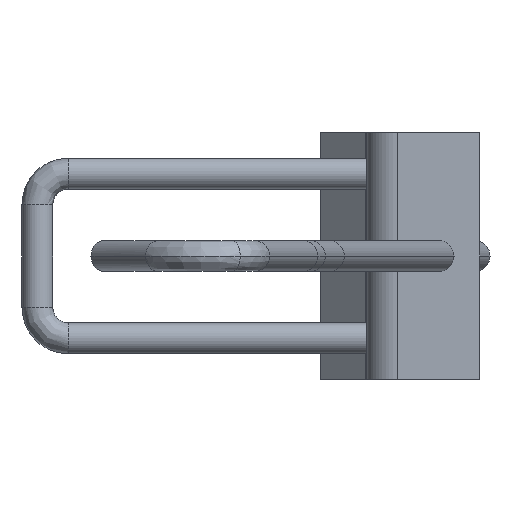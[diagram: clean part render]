
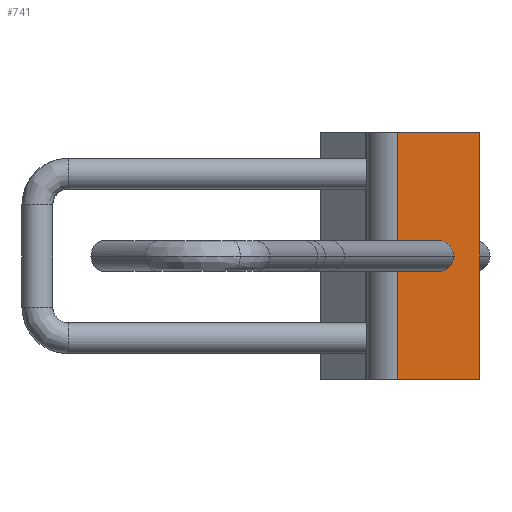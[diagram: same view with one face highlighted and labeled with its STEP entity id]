
A CAD part, left-side view. The second image highlights one B-rep face of the part: STEP entity #741.
In plain terms, the highlighted planar face has unit normal (-1, 0, 0).
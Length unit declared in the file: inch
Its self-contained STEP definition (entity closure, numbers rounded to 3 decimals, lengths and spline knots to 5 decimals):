
#461=EDGE_CURVE('',#1168,#1169,#1170,.T.);
#489=EDGE_CURVE('',#1168,#1140,#1211,.T.);
#547=EDGE_CURVE('',#1300,#1301,#1302,.T.);
#569=EDGE_CURVE('',#1301,#1300,#1335,.T.);
#639=EDGE_CURVE('',#1140,#1376,#1438,.T.);
#675=EDGE_CURVE('',#1169,#1376,#1487,.T.);
#741=ADVANCED_FACE('',(#1571,#1572),#1573,.T.);
#1140=VERTEX_POINT('',#2231);
#1168=VERTEX_POINT('',#2271);
#1169=VERTEX_POINT('',#2272);
#1170=LINE('',#2273,#2274);
#1211=LINE('',#2406,#2407);
#1300=VERTEX_POINT('',#2548);
#1301=VERTEX_POINT('',#2549);
#1302=ELLIPSE('',#2550,0.19058,0.1875);
#1335=ELLIPSE('',#2603,0.19058,0.1875);
#1376=VERTEX_POINT('',#2661);
#1438=LINE('',#2753,#2754);
#1487=LINE('',#2820,#2821);
#1571=FACE_OUTER_BOUND('',#2994,.T.);
#1572=FACE_BOUND('',#2995,.T.);
#1573=PLANE('',#2996);
#2231=CARTESIAN_POINT('',(3.52252,-1.14678,3.0));
#2271=CARTESIAN_POINT('',(3.52252,-1.14678,0.0));
#2272=CARTESIAN_POINT('',(3.52252,-0.14678,0.0));
#2273=CARTESIAN_POINT('',(3.52252,-1.14678,0.0));
#2274=VECTOR('',#4288,1.0);
#2406=CARTESIAN_POINT('',(3.52252,-1.14678,0.0));
#2407=VECTOR('',#4327,1.0);
#2548=CARTESIAN_POINT('',(3.52252,-0.45015,1.5));
#2549=CARTESIAN_POINT('',(3.52252,-0.83131,1.5));
#2550=AXIS2_PLACEMENT_3D('',#4424,#4425,#4426);
#2603=AXIS2_PLACEMENT_3D('',#4470,#4471,#4472);
#2661=CARTESIAN_POINT('',(3.52252,-0.14678,3.0));
#2753=CARTESIAN_POINT('',(3.52252,-1.14678,3.0));
#2754=VECTOR('',#4644,1.0);
#2820=CARTESIAN_POINT('',(3.52252,-0.14678,0.0));
#2821=VECTOR('',#4719,1.0);
#2994=EDGE_LOOP('',(#4801,#4802,#4803,#4804));
#2995=EDGE_LOOP('',(#4805,#4806));
#2996=AXIS2_PLACEMENT_3D('',#4807,#4808,#4809);
#4288=DIRECTION('',(0.0,1.0,0.0));
#4327=DIRECTION('',(0.0,0.0,1.0));
#4424=CARTESIAN_POINT('',(3.52252,-0.64073,1.5));
#4425=DIRECTION('',(-1.0,0.0,0.0));
#4426=DIRECTION('',(0.0,-1.0,0.0));
#4470=CARTESIAN_POINT('',(3.52252,-0.64073,1.5));
#4471=DIRECTION('',(-1.0,0.0,0.0));
#4472=DIRECTION('',(0.0,-1.0,0.0));
#4644=DIRECTION('',(0.0,1.0,0.0));
#4719=DIRECTION('',(0.0,0.0,1.0));
#4801=ORIENTED_EDGE('',*,*,#639,.T.);
#4802=ORIENTED_EDGE('',*,*,#675,.F.);
#4803=ORIENTED_EDGE('',*,*,#461,.F.);
#4804=ORIENTED_EDGE('',*,*,#489,.T.);
#4805=ORIENTED_EDGE('',*,*,#547,.F.);
#4806=ORIENTED_EDGE('',*,*,#569,.F.);
#4807=CARTESIAN_POINT('',(3.52252,-0.64678,0.0));
#4808=DIRECTION('',(-1.0,-0.0,0.0));
#4809=DIRECTION('',(0.0,-1.0,-0.0));
